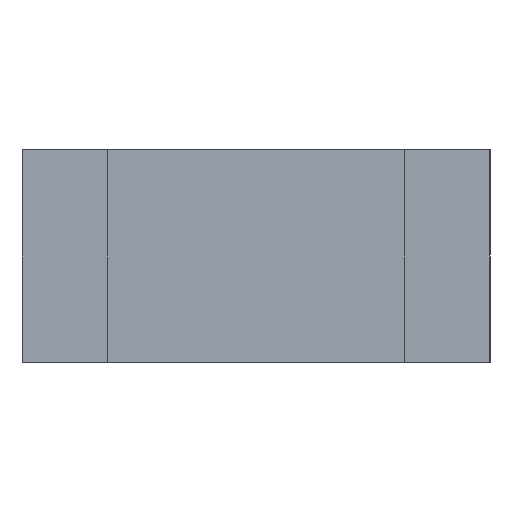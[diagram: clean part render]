
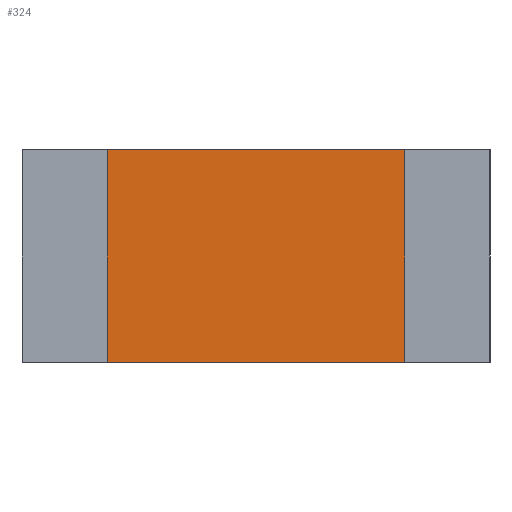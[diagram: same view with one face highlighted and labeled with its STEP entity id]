
A CAD part, left-side view. The second image highlights one B-rep face of the part: STEP entity #324.
In plain terms, the highlighted planar face has unit normal (-1, 0, 0).
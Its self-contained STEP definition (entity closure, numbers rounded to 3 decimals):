
#324=ADVANCED_FACE('',(#372),#374,.T.);
#372=FACE_BOUND('',#373,.T.);
#373=EDGE_LOOP('',(#438,#439,#440,#441));
#374=PLANE('',#375);
#375=AXIS2_PLACEMENT_3D('',#376,#377,#378);
#376=CARTESIAN_POINT('',(-20.,0.,0.));
#377=DIRECTION('',(-1.,0.,0.));
#378=DIRECTION('',(0.,0.,1.));
#438=ORIENTED_EDGE('',*,*,#474,.T.);
#439=ORIENTED_EDGE('',*,*,#475,.T.);
#440=ORIENTED_EDGE('',*,*,#476,.F.);
#441=ORIENTED_EDGE('',*,*,#477,.F.);
#474=EDGE_CURVE('',#506,#507,#508,.T.);
#475=EDGE_CURVE('',#507,#509,#510,.T.);
#476=EDGE_CURVE('',#511,#509,#512,.T.);
#477=EDGE_CURVE('',#506,#511,#513,.T.);
#506=VERTEX_POINT('',#570);
#507=VERTEX_POINT('',#571);
#508=LINE('',#572,#573);
#509=VERTEX_POINT('',#575);
#510=LINE('',#576,#577);
#511=VERTEX_POINT('',#579);
#512=LINE('',#580,#581);
#513=LINE('',#583,#584);
#570=CARTESIAN_POINT('',(-20.,0.,0.));
#571=CARTESIAN_POINT('',(-20.,0.,50.));
#572=CARTESIAN_POINT('',(-20.,0.,0.));
#573=VECTOR('',#574,1.);
#574=DIRECTION('',(0.,0.,1.));
#575=CARTESIAN_POINT('',(-20.,70.,50.));
#576=CARTESIAN_POINT('',(-20.,0.,50.));
#577=VECTOR('',#578,1.);
#578=DIRECTION('',(0.,1.,0.));
#579=CARTESIAN_POINT('',(-20.,70.,0.));
#580=CARTESIAN_POINT('',(-20.,70.,0.));
#581=VECTOR('',#582,1.);
#582=DIRECTION('',(0.,0.,1.));
#583=CARTESIAN_POINT('',(-20.,0.,0.));
#584=VECTOR('',#585,1.);
#585=DIRECTION('',(0.,1.,0.));
